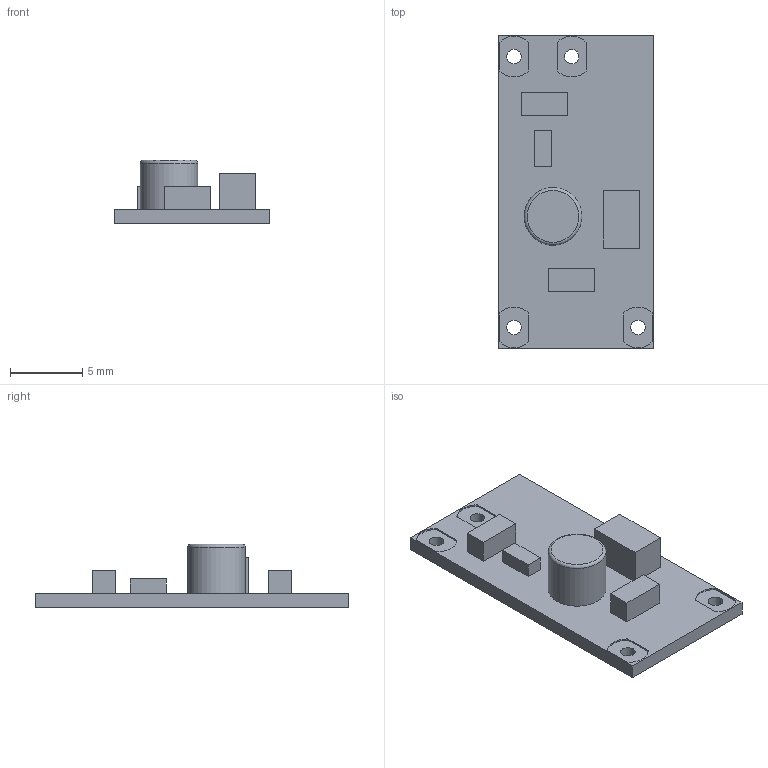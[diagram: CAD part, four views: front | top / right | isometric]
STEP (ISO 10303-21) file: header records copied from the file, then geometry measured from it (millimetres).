
FILE_DESCRIPTION(/* description */ (''),/* implementation_level */ '2;1');
FILE_NAME(/* name */ 'mini dc dc boost module.step',/* time_stamp */ '2023-01-25T22:28:50+10:00',/* author */ (''),/* organization */ (''),/* preprocessor_version */ 'ST-DEVELOPER v19.2',/* originating_system */ 'Autodesk Translation Framework v11.17.0.187',/* authorisation */ '');
FILE_SCHEMA (('AUTOMOTIVE_DESIGN { 1 0 10303 214 3 1 1 }'));
Length unit declared in the file: millimetre
Products named in the file (1): повышающий модуль 
5в
Bounding box: 10.8 x 21.8 x 4.4 mm (x, y, z)
Volume: 315.8 mm3; surface area: 784.5 mm2
Topology: 10 solids, 10 shells, 78 faces, 173 edges, 115 vertices
Faces by surface type: plane 56, cylinder 21, torus 1
Full cylindrical faces by diameter (mm): 1 x4, 4 x1
Entity records: 2237 total; most frequent: DIRECTION 375, CARTESIAN_POINT 367, ORIENTED_EDGE 346, EDGE_CURVE 173, LINE 129, VECTOR 129, AXIS2_PLACEMENT_3D 123, VERTEX_POINT 115
